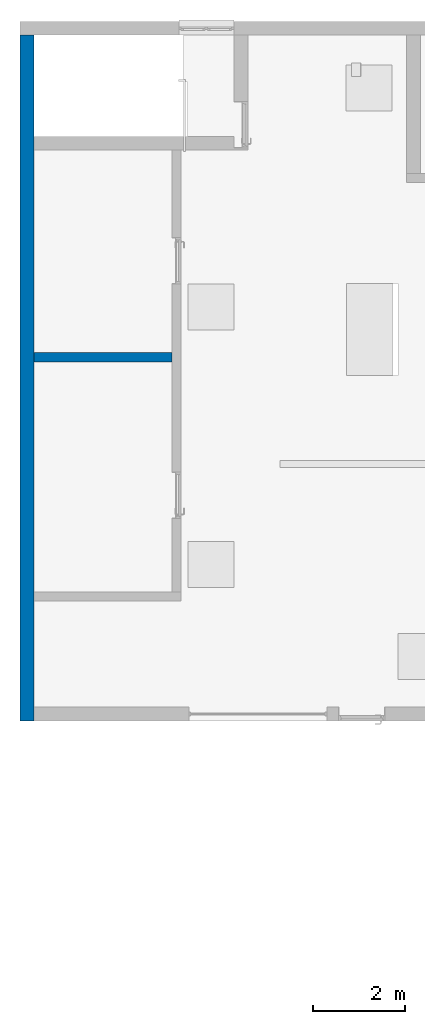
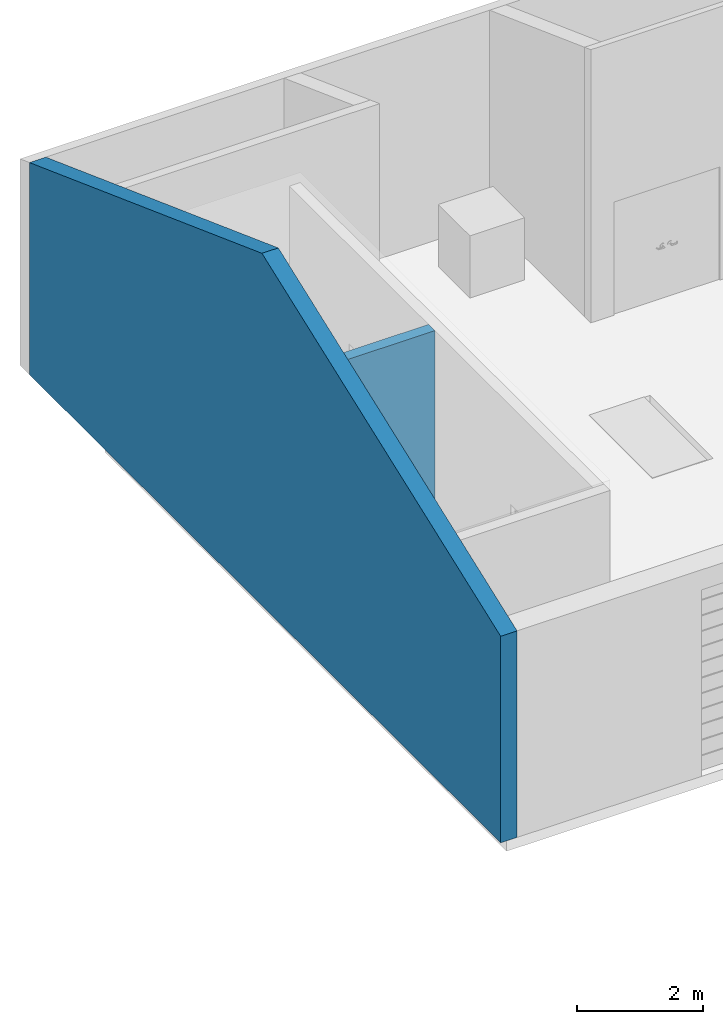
# One storey, part 3 of 23: 2 walls.
"""IFC2X3 building model written with IfcOpenShell, lengths in millimetres."""

from ifc_helpers import new_model, entity, si_unit, converted_unit, direction, frame, frame_2d, origin, place, context, subcontext, project, spatial, polyline, rectangle, extrude, clip, bounded_halfspace, material, layer, layer_set, layer_usage, type_object, element, save


model = new_model("IFC2X3")

# Units and contexts
model_context = context("Model", 3, precision=0.01, world=origin(), true_north=direction((6.123031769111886e-17, 1.0)))
body_context = subcontext(model_context, "Body", "Model", "MODEL_VIEW")
ifc_project = project(units=[si_unit("LENGTHUNIT", "METRE", prefix="MILLI"), converted_unit("PLANEANGLEUNIT", "DEGREE", entity("IfcPlaneAngleMeasure", 0.017453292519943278), si_unit("PLANEANGLEUNIT", "RADIAN"), dimensions=[0, 0, 0, 0, 0, 0, 0]), si_unit("AREAUNIT", "SQUARE_METRE")], contexts=[model_context])

# Site, building, storey
site_placement = place(None, frame((7776.576483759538, 118.3519876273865, 0.0)))
site = spatial("IfcSite", under=ifc_project, at=site_placement, Name="Default", CompositionType="ELEMENT")
building_placement = place(site_placement, origin())
building = spatial("IfcBuilding", under=site, at=building_placement, Name="Bygning (endres i Project Information)", CompositionType="ELEMENT")
storey_placement = place(building_placement, frame((0.0, 0.0, 19000.0)))
storey = spatial("IfcBuildingStorey", under=building, at=storey_placement, Name="Plan 01", CompositionType="ELEMENT", Elevation=19000.0)

# Walls
ifc_material = material(Name="Default Wall")
ifc_layer_1 = layer(ifc_material, 300.0)
ifc_layer_set_1 = layer_set([ifc_layer_1], Name="Basic Wall:Generic - 300mm")
ifc_layer_usage_1 = layer_usage(ifc_layer_set_1, "AXIS2", "NEGATIVE", 149.99999999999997)
wall_type_1 = type_object("IfcWallType", Name="Basic Wall:Generic - 300mm", PredefinedType="STANDARD", material=ifc_layer_set_1)
wall_1_placement = place(storey_placement, frame((13024.001374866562, 34297.75730578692, 0.0), z_axis=(0.0, 0.0, 1.0), x_axis=(0.0, -1.0, 0.0)))
element("IfcWallStandardCase", 1, at=wall_1_placement, inside=storey, type_object=wall_type_1, material=ifc_layer_usage_1, Name="Basic Wall:Generic - 300mm", ObjectType="Basic Wall:Generic - 300mm", context=body_context, shape_type="Clipping", body=[
    clip(clip(extrude(rectangle(XDim=14900.0, YDim=300.0000000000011, at=frame_2d((7450.0, 4.405364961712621e-13), x_axis=(-1.0, 0.0))), origin(), (0.0, 0.0, 1.0), 6799.999999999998), bounded_halfspace(frame((7350.0, -150.0, 6800.0), z_axis=(0.34920923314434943, 0.0, 0.9370447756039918), x_axis=(0.0, 1.0, 0.0)), False, frame((7350.0, -150.0, 6800.0)), polyline([(0.0, 0.0), (7550.0, 0.0), (7550.0, 300.0), (7250.0, 300.0), (0.0, 300.0), (0.0, 0.0)]))), bounded_halfspace(frame((0.0, -150.0, 4094.478527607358), z_axis=(-0.34543854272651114, 0.0, 0.9384413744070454), x_axis=(0.0, -1.0, 0.0)), False, frame((0.0, -150.0, 4094.478527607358)), polyline([(0.0, 0.0), (7350.0, 0.0), (7350.0, 300.0), (2500.0, 300.0), (2200.0, 300.0), (0.0, 300.0), (0.0, 0.0)]))),
])
ifc_layer_2 = layer(ifc_material, 200.0)
ifc_layer_set_2 = layer_set([ifc_layer_2], Name="Basic Wall:Generic - 200mm")
ifc_layer_usage_2 = layer_usage(ifc_layer_set_2, "AXIS2", "NEGATIVE", 100.0)
wall_type_2 = type_object("IfcWallType", Name="Basic Wall:Generic - 200mm", PredefinedType="STANDARD", material=ifc_layer_set_2)
wall_2_placement = place(storey_placement, frame((13174.00137486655, 27297.757305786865, 0.0)))
element("IfcWallStandardCase", 2, at=wall_2_placement, inside=storey, type_object=wall_type_2, material=ifc_layer_usage_2, Name="Basic Wall:Generic - 200mm", ObjectType="Basic Wall:Generic - 200mm", context=body_context, shape_type="SweptSolid", body=[
    extrude(rectangle(XDim=3000.0000000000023, YDim=199.99999999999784, at=frame_2d((1500.0000000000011, 2.2026824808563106e-13), x_axis=(-1.0, 0.0))), origin(), (0.0, 0.0, 1.0), 4000.0000000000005),
])

save(model, "model.ifc")
